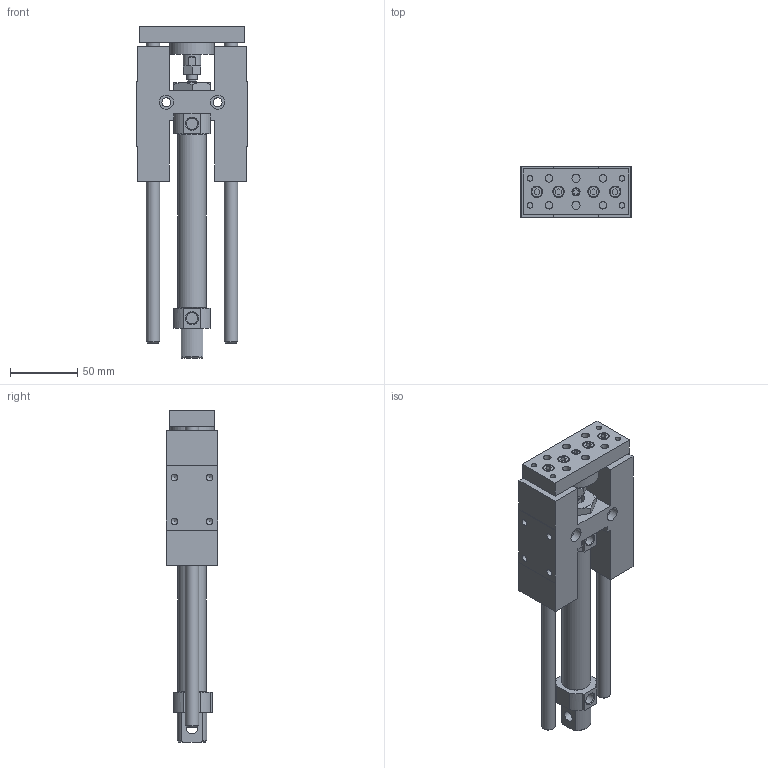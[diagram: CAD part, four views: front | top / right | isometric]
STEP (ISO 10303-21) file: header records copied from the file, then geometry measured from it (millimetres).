
FILE_DESCRIPTION((''),'2;1');
FILE_NAME('I:\3D電子目錄\氣缸\GHB(U)\GHB(U)\GHB(U)20\GHB(U)20x100.stp','2007-10-22T16:13:38',('Administrator'),(''),'Autodesk Inventor 11','Autodesk Inventor 11','');
FILE_SCHEMA(('AUTOMOTIVE_DESIGN { 1 0 10303 214 1 1 1 1 }'));
Length unit declared in the file: millimetre
Products named in the file (1): GHB(U)20
Bounding box: 82 x 38 x 246 mm (x, y, z)
Volume: 331040.3 mm3; surface area: 69022.1 mm2
Topology: 1 solids, 1 shells, 241 faces, 563 edges, 363 vertices
Faces by surface type: plane 132, bspline 40, cylinder 38, cone 31
Full cylindrical faces by diameter (mm): 4.917 x4, 5 x1, 6 x3, 6.6 x1, 7.5 x4, 8 x3, 8.5 x6, 10 x2, 13 x2, 21.2 x1, 33 x1
Entity records: 6788 total; most frequent: CARTESIAN_POINT 1686, DIRECTION 1006, ORIENTED_EDGE 964, EDGE_CURVE 482, EDGE_LOOP 372, AXIS2_PLACEMENT_3D 366, VERTEX_POINT 348, VECTOR 274
